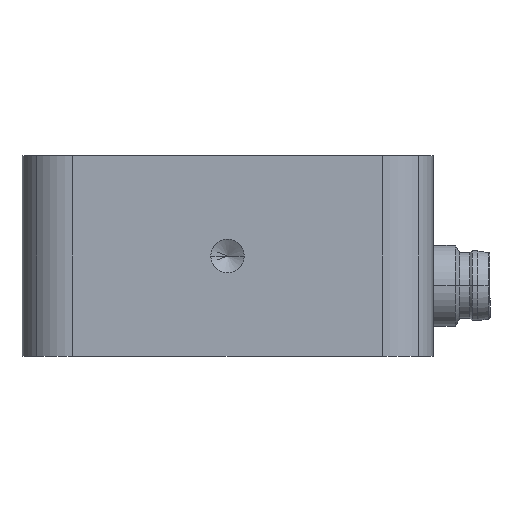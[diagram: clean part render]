
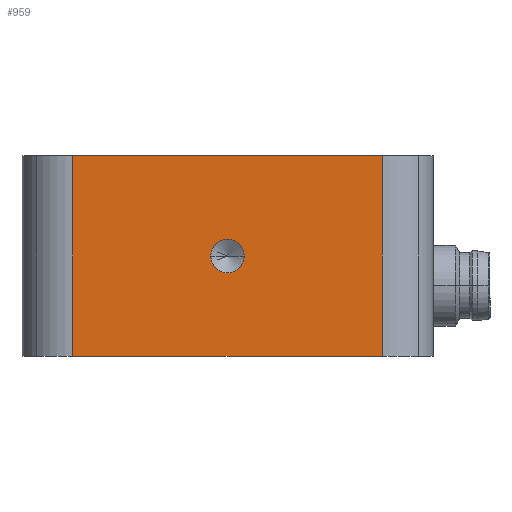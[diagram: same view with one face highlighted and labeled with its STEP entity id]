
A CAD part, left-side view. The second image highlights one B-rep face of the part: STEP entity #959.
In plain terms, the highlighted planar face has unit normal (-1, 0, 0).
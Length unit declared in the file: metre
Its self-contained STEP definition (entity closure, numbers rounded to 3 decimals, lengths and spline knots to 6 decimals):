
#959=ADVANCED_FACE('0:7871',(#2002,#2003),#2004,.T.);
#2002=FACE_OUTER_BOUND('',#3004,.T.);
#2003=FACE_BOUND('',#3005,.T.);
#2004=PLANE('',#3006);
#3004=EDGE_LOOP('',(#4572,#4573,#4574,#4575));
#3005=EDGE_LOOP('',(#4576,#4577));
#3006=AXIS2_PLACEMENT_3D('',#4578,#4579,#4580);
#4572=ORIENTED_EDGE('',*,*,#7169,.F.);
#4573=ORIENTED_EDGE('',*,*,#7146,.T.);
#4574=ORIENTED_EDGE('',*,*,#7052,.F.);
#4575=ORIENTED_EDGE('',*,*,#7159,.T.);
#4576=ORIENTED_EDGE('',*,*,#7170,.T.);
#4577=ORIENTED_EDGE('',*,*,#7077,.T.);
#4578=CARTESIAN_POINT('',(0.2279,0.0,0.0));
#4579=DIRECTION('',(-1.0,0.0,0.0));
#4580=DIRECTION('',(0.0,0.0,1.0));
#7052=EDGE_CURVE('0:9110',#9171,#9173,#9174,.T.);
#7077=EDGE_CURVE('0:9155',#9217,#9221,#9223,.T.);
#7146=EDGE_CURVE('0:9449',#9342,#9173,#9343,.F.);
#7159=EDGE_CURVE('0:9452',#9171,#9359,#9361,.T.);
#7169=EDGE_CURVE('0:9080',#9342,#9359,#9373,.T.);
#7170=EDGE_CURVE('0:9155',#9221,#9217,#9374,.T.);
#9171=VERTEX_POINT('',#10475);
#9173=VERTEX_POINT('',#10477);
#9174=LINE('',#10478,#10479);
#9217=VERTEX_POINT('',#10532);
#9221=VERTEX_POINT('',#10537);
#9223=CIRCLE('',#10540,0.00165);
#9342=VERTEX_POINT('',#10696);
#9343=LINE('',#10697,#10698);
#9359=VERTEX_POINT('',#10718);
#9361=LINE('',#10720,#10721);
#9373=LINE('',#10737,#10738);
#9374=CIRCLE('',#10739,0.00165);
#10475=CARTESIAN_POINT('',(0.2279,0.0153,0.0));
#10477=CARTESIAN_POINT('',(0.2279,0.0153,0.0198));
#10478=CARTESIAN_POINT('',(0.2279,0.0153,0.0));
#10479=VECTOR('',#12539,1.0);
#10532=CARTESIAN_POINT('',(0.2279,0.00165,0.0099));
#10537=CARTESIAN_POINT('',(0.2279,-0.00165,0.0099));
#10540=AXIS2_PLACEMENT_3D('',#12588,#12589,#12590);
#10696=CARTESIAN_POINT('',(0.2279,-0.0153,0.0198));
#10697=CARTESIAN_POINT('',(0.2279,0.0,0.0198));
#10698=VECTOR('',#12721,1.0);
#10718=CARTESIAN_POINT('',(0.2279,-0.0153,0.0));
#10720=CARTESIAN_POINT('',(0.2279,0.0,0.0));
#10721=VECTOR('',#12750,1.0);
#10737=CARTESIAN_POINT('',(0.2279,-0.0153,0.0));
#10738=VECTOR('',#12770,1.0);
#10739=AXIS2_PLACEMENT_3D('',#12771,#12772,#12773);
#12539=DIRECTION('',(0.0,-0.0,1.0));
#12588=CARTESIAN_POINT('',(0.2279,0.0,0.0099));
#12589=DIRECTION('',(1.0,0.0,-0.0));
#12590=DIRECTION('',(0.0,1.0,0.));
#12721=DIRECTION('',(-0.0,-1.0,-0.0));
#12750=DIRECTION('',(-0.0,-1.0,-0.0));
#12770=DIRECTION('',(-0.0,-0.0,-1.0));
#12771=CARTESIAN_POINT('',(0.2279,0.0,0.0099));
#12772=DIRECTION('',(1.0,0.0,-0.0));
#12773=DIRECTION('',(0.0,1.0,0.));
